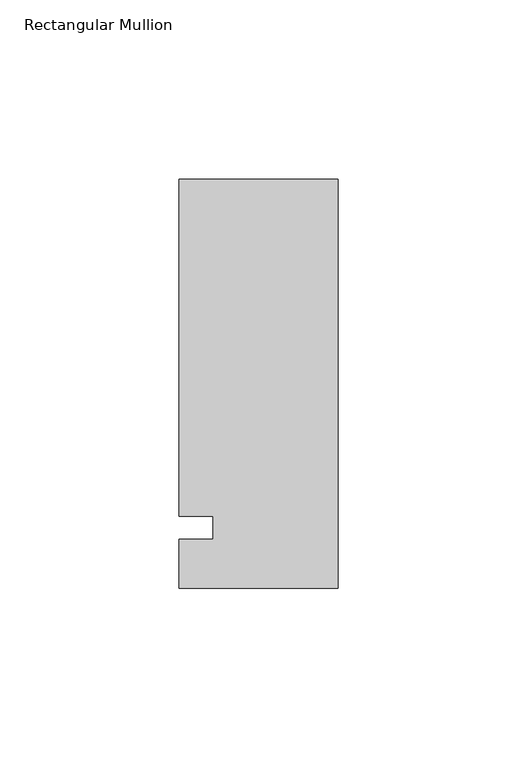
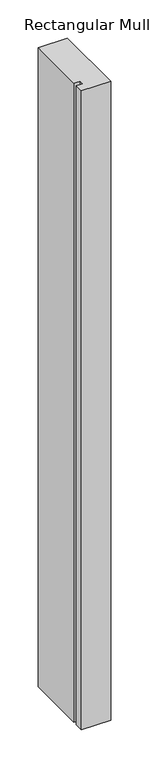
"""IFC4 building model written with IfcOpenShell, lengths in millimetres: member geometry, Rectangular Mullion : Kawneer-TRIFAB_VG_450_BACK_SB_Sill."""

from ifc_helpers import new_model, si_unit, frame, origin, place, context, project, spatial, polyline, outline, extrude, source, transform, mapped, element, save


def rectangular_mullion_10ea58ea(model_context):
    return source(origin(), model_context, "Body", "SweptSolid", [
        extrude(outline(polyline([(-44.45, -16.8840492), (-44.45, -3.175), (-34.925, -3.175), (-34.925, 3.175), (-44.45, 3.175), (-44.45, 97.4159508), (0.0, 97.4159508), (0.0, -16.8840492), (-44.45, -16.8840492)])), frame((0.0, 0.0, -1026.3344133), z_axis=(0.0, 0.0, 1.0), x_axis=(1.0, 0.0, 0.0)), (0.0, 0.0, 1.0), 1026.3344133),
    ])


if __name__ == "__main__":
    model = new_model("IFC4")
    model_context = context("Model", 3, world=origin())
    ifc_project = project(units=[si_unit("LENGTHUNIT", "METRE", prefix="MILLI")], contexts=[model_context])
    site = spatial("IfcSite", under=ifc_project)
    building = spatial("IfcBuilding", under=site)
    placement = place(None, origin())
    rectangular_mullion_shape = rectangular_mullion_10ea58ea(model_context)
    element("IfcMember", 1, ObjectType="Rectangular Mullion : Kawneer-TRIFAB_VG_450_BACK_SB_Sill", at=placement, inside=building, context=model_context, shape_type="MappedRepresentation", body=[
        mapped(rectangular_mullion_shape, transform((0.0, 0.0, 0.0), x_axis=(1.0, 0.0, 0.0), y_axis=(0.0, 1.0, 0.0), z_axis=(0.0, 0.0, 1.0))),
    ])
    save(model, "model.ifc")
